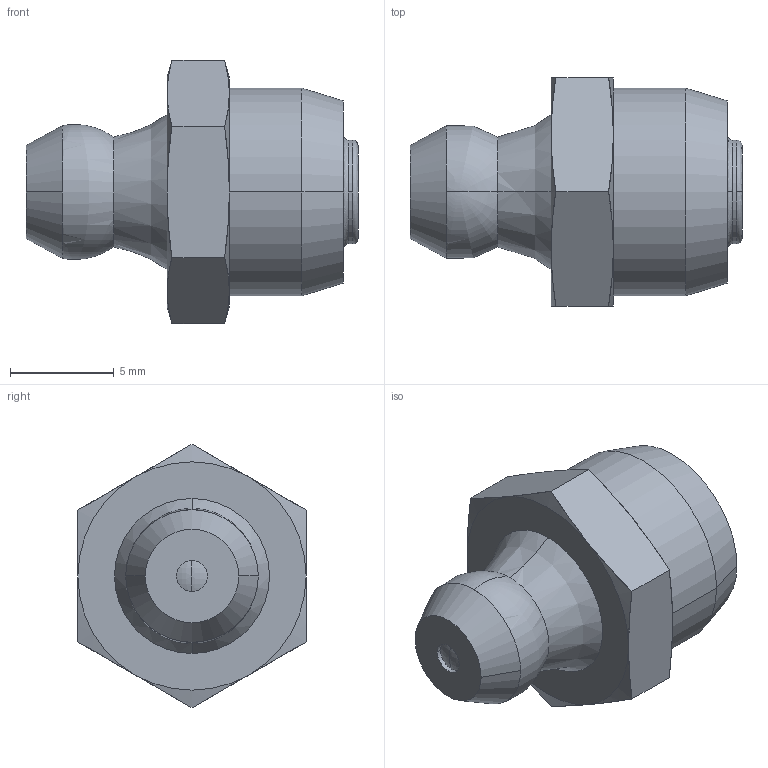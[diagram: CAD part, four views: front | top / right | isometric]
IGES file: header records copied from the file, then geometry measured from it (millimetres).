
Start section: Data from XPlus IGES,  Spatial Corp. Copyright (c) 1989-2001 .
Global section: file name: Kegelschmiernippel DIN 71412-A - M10x1.igs; native system:  By Spatial Corp.; preprocessor: XPlus ACIS/IGES 3.0; author: Noname; organization: Noname; date: 20051205.001649; units: millimetre
Bounding box: 16 x 11 x 12.7 mm (x, y, z)
Surface area: 597 mm2 (no closed solid volume)
Topology: 0 solids, 0 shells, 48 faces, 232 edges, 228 vertices
Faces by surface type: revolution 36, extrusion 12
